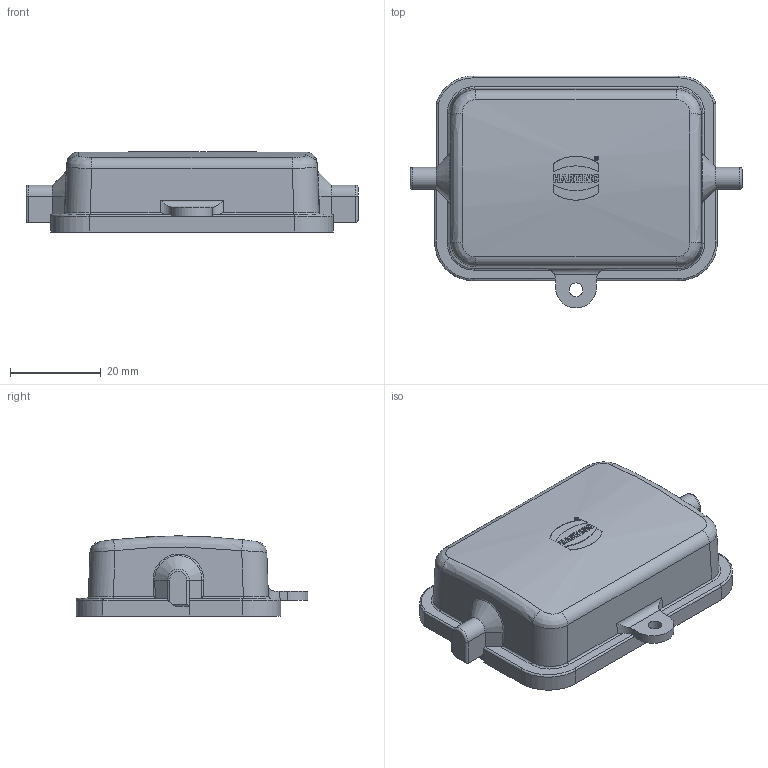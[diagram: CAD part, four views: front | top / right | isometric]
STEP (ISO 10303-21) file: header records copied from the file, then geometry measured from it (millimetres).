
FILE_DESCRIPTION(/* description */ (''),/* implementation_level */ '2;1');
FILE_NAME(/* name */ '100622959ugm000_a.stp',/* time_stamp */ '2016-02-22T15:54:39+01:00',/* author */ (''),/* organization */ (''),/* preprocessor_version */ 'ST-DEVELOPER v16',/* originating_system */ 'SIEMENS PLM Software NX 10.0',/* authorisation */ '');
FILE_SCHEMA (('AUTOMOTIVE_DESIGN { 1 0 10303 214 3 1 1 1 }'));
Length unit declared in the file: millimetre
Products named in the file (1): 100622959ugm000_a
Bounding box: 73 x 51 x 17.6 mm (x, y, z)
Volume: 10194.8 mm3; surface area: 10919.2 mm2
Topology: 1 solids, 1 shells, 282 faces, 782 edges, 599 vertices
Faces by surface type: plane 143, cylinder 83, bspline 22, torus 18, cone 10, extrusion 6
Full cylindrical faces by diameter (mm): 0.671 x1, 0.984 x1, 3 x1
Entity records: 11294 total; most frequent: CARTESIAN_POINT 3349, DIRECTION 1442, ORIENTED_EDGE 1396, EDGE_CURVE 698, AXIS2_PLACEMENT_3D 494, VECTOR 454, LINE 448, VERTEX_POINT 438
